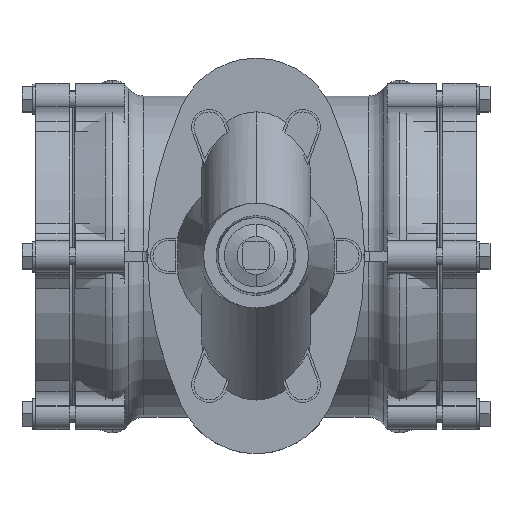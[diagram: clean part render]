
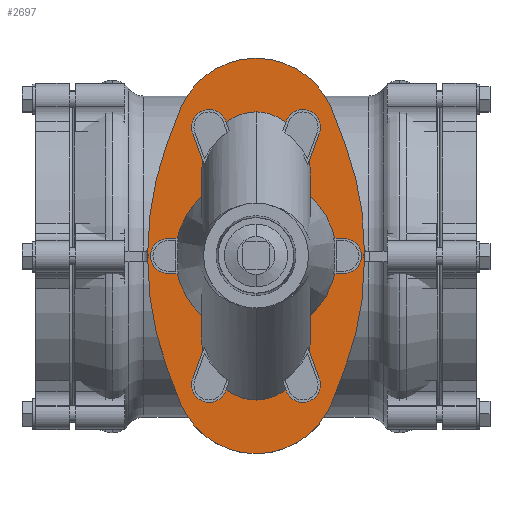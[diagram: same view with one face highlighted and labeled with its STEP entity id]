
A CAD part, top view. The second image highlights one B-rep face of the part: STEP entity #2697.
In plain terms, the highlighted planar face has unit normal (0, 0, 1).
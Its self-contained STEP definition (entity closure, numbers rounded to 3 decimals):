
#2697=ADVANCED_FACE('',(#5395),#5396,.T.);
#5395=FACE_OUTER_BOUND('',#8924,.T.);
#5396=PLANE('',#8925);
#8924=EDGE_LOOP('',(#13432,#13433,#13434,#13435,#13436,#13437,#13438,#13439,#13440,#13441,#13442,#13443,#13444,#13445));
#8925=AXIS2_PLACEMENT_3D('',#13446,#13447,#13448);
#13432=ORIENTED_EDGE('',*,*,#20335,.F.);
#13433=ORIENTED_EDGE('',*,*,#20313,.F.);
#13434=ORIENTED_EDGE('',*,*,#20336,.F.);
#13435=ORIENTED_EDGE('',*,*,#20337,.F.);
#13436=ORIENTED_EDGE('',*,*,#20338,.F.);
#13437=ORIENTED_EDGE('',*,*,#19385,.F.);
#13438=ORIENTED_EDGE('',*,*,#18983,.F.);
#13439=ORIENTED_EDGE('',*,*,#20339,.F.);
#13440=ORIENTED_EDGE('',*,*,#20340,.F.);
#13441=ORIENTED_EDGE('',*,*,#19524,.F.);
#13442=ORIENTED_EDGE('',*,*,#20341,.F.);
#13443=ORIENTED_EDGE('',*,*,#19511,.F.);
#13444=ORIENTED_EDGE('',*,*,#19593,.F.);
#13445=ORIENTED_EDGE('',*,*,#20342,.F.);
#13446=CARTESIAN_POINT('',(60.049,0.001,338.0));
#13447=DIRECTION('',(0.0,0.0,1.0));
#13448=DIRECTION('',(1.0,0.0,0.0));
#18983=EDGE_CURVE('',#22137,#22133,#22139,.T.);
#19385=EDGE_CURVE('',#22133,#22842,#22843,.T.);
#19511=EDGE_CURVE('',#23057,#23052,#23059,.T.);
#19524=EDGE_CURVE('',#23078,#23079,#23080,.T.);
#19593=EDGE_CURVE('',#23189,#23057,#23192,.T.);
#20313=EDGE_CURVE('',#24341,#24342,#24343,.T.);
#20335=EDGE_CURVE('',#24342,#24374,#24375,.T.);
#20336=EDGE_CURVE('',#24376,#24341,#24377,.T.);
#20337=EDGE_CURVE('',#24378,#24376,#24379,.T.);
#20338=EDGE_CURVE('',#22842,#24378,#24380,.T.);
#20339=EDGE_CURVE('',#24381,#22137,#24382,.T.);
#20340=EDGE_CURVE('',#23079,#24381,#24383,.T.);
#20341=EDGE_CURVE('',#23052,#23078,#24384,.T.);
#20342=EDGE_CURVE('',#24374,#23189,#24385,.T.);
#22133=VERTEX_POINT('',#26667);
#22137=VERTEX_POINT('',#26672);
#22139=CIRCLE('',#26675,271.3);
#22842=VERTEX_POINT('',#27573);
#22843=CIRCLE('',#27574,271.3);
#23052=VERTEX_POINT('',#27854);
#23057=VERTEX_POINT('',#27860);
#23059=CIRCLE('',#27863,283.766);
#23078=VERTEX_POINT('',#27887);
#23079=VERTEX_POINT('',#27888);
#23080=LINE('',#27889,#27890);
#23189=VERTEX_POINT('',#28032);
#23192=CIRCLE('',#28036,283.766);
#24341=VERTEX_POINT('',#29528);
#24342=VERTEX_POINT('',#29529);
#24343=CIRCLE('',#29530,77.985);
#24374=VERTEX_POINT('',#29564);
#24375=LINE('',#29565,#29566);
#24376=VERTEX_POINT('',#29567);
#24377=LINE('',#29568,#29569);
#24378=VERTEX_POINT('',#29570);
#24379=CIRCLE('',#29571,271.31);
#24380=CIRCLE('',#29572,271.31);
#24381=VERTEX_POINT('',#29573);
#24382=LINE('',#29574,#29575);
#24383=CIRCLE('',#29576,77.985);
#24384=CIRCLE('',#29577,283.766);
#24385=CIRCLE('',#29578,283.766);
#26667=CARTESIAN_POINT('',(163.037,8.851,338.0));
#26672=CARTESIAN_POINT('',(144.729,106.824,338.0));
#26675=AXIS2_PLACEMENT_3D('',#32402,#32403,#32404);
#27573=CARTESIAN_POINT('',(162.892,0.0,338.0));
#27574=AXIS2_PLACEMENT_3D('',#32957,#32958,#32959);
#27854=CARTESIAN_POINT('',(-42.971,6.69,338.0));
#27860=CARTESIAN_POINT('',(-42.892,0.,338.0));
#27863=AXIS2_PLACEMENT_3D('',#33108,#33109,#33110);
#27887=CARTESIAN_POINT('',(-24.718,106.82,338.0));
#27888=CARTESIAN_POINT('',(-12.961,137.997,338.0));
#27889=CARTESIAN_POINT('',(-12.961,137.997,338.0));
#27890=VECTOR('',#33122,1.0);
#28032=CARTESIAN_POINT('',(-42.971,-6.69,338.0));
#28036=AXIS2_PLACEMENT_3D('',#33205,#33206,#33207);
#29528=CARTESIAN_POINT('',(132.98,-137.977,338.0));
#29529=CARTESIAN_POINT('',(-12.961,-137.997,338.0));
#29530=AXIS2_PLACEMENT_3D('',#34157,#34158,#34159);
#29564=CARTESIAN_POINT('',(-24.718,-106.82,338.0));
#29565=CARTESIAN_POINT('',(-24.718,-106.82,338.0));
#29566=VECTOR('',#34196,1.0);
#29567=CARTESIAN_POINT('',(144.718,-106.82,338.0));
#29568=CARTESIAN_POINT('',(132.98,-137.977,338.0));
#29569=VECTOR('',#34197,1.0);
#29570=CARTESIAN_POINT('',(163.036,-8.821,338.0));
#29571=AXIS2_PLACEMENT_3D('',#34198,#34199,#34200);
#29572=AXIS2_PLACEMENT_3D('',#34201,#34202,#34203);
#29573=CARTESIAN_POINT('',(132.971,138.001,338.0));
#29574=CARTESIAN_POINT('',(144.729,106.824,338.0));
#29575=VECTOR('',#34204,1.0);
#29576=AXIS2_PLACEMENT_3D('',#34205,#34206,#34207);
#29577=AXIS2_PLACEMENT_3D('',#34208,#34209,#34210);
#29578=AXIS2_PLACEMENT_3D('',#34211,#34212,#34213);
#32402=CARTESIAN_POINT('',(-108.264,8.851,338.0));
#32403=DIRECTION('',(0.0,0.0,-1.0));
#32404=DIRECTION('',(1.0,0.0,0.0));
#32957=CARTESIAN_POINT('',(-108.264,8.851,338.0));
#32958=DIRECTION('',(0.0,0.0,-1.0));
#32959=DIRECTION('',(1.0,0.0,0.0));
#33108=CARTESIAN_POINT('',(240.795,6.69,338.0));
#33109=DIRECTION('',(0.0,0.0,-1.0));
#33110=DIRECTION('',(1.0,0.0,0.0));
#33122=DIRECTION('',(0.353,0.936,0.0));
#33205=CARTESIAN_POINT('',(240.795,-6.69,338.0));
#33206=DIRECTION('',(0.0,0.0,-1.0));
#33207=DIRECTION('',(1.0,0.0,0.0));
#34157=CARTESIAN_POINT('',(60.006,-110.473,338.0));
#34158=DIRECTION('',(0.0,0.0,-1.0));
#34159=DIRECTION('',(1.0,0.0,0.0));
#34196=DIRECTION('',(-0.353,0.936,0.0));
#34197=DIRECTION('',(-0.353,-0.936,-0.0));
#34198=CARTESIAN_POINT('',(-108.275,-8.821,338.0));
#34199=DIRECTION('',(0.0,0.0,-1.0));
#34200=DIRECTION('',(1.0,0.0,0.0));
#34201=CARTESIAN_POINT('',(-108.275,-8.821,338.0));
#34202=DIRECTION('',(0.0,0.0,-1.0));
#34203=DIRECTION('',(1.0,0.0,0.0));
#34204=DIRECTION('',(0.353,-0.936,0.0));
#34205=CARTESIAN_POINT('',(60.006,110.473,338.0));
#34206=DIRECTION('',(0.0,0.0,-1.0));
#34207=DIRECTION('',(1.0,0.0,0.0));
#34208=CARTESIAN_POINT('',(240.795,6.69,338.0));
#34209=DIRECTION('',(0.0,0.0,-1.0));
#34210=DIRECTION('',(1.0,0.0,0.0));
#34211=CARTESIAN_POINT('',(240.795,-6.69,338.0));
#34212=DIRECTION('',(0.0,0.0,-1.0));
#34213=DIRECTION('',(1.0,0.0,0.0));
